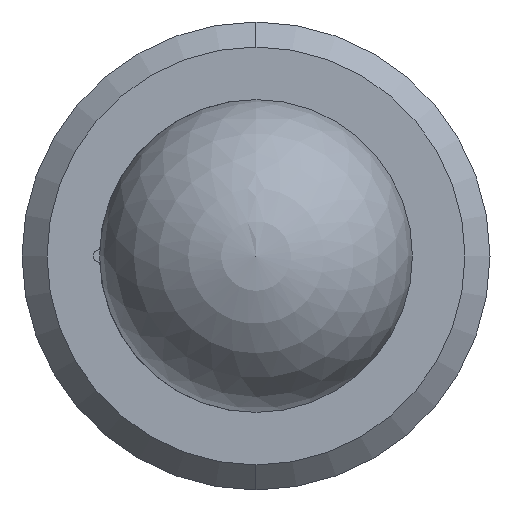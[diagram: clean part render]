
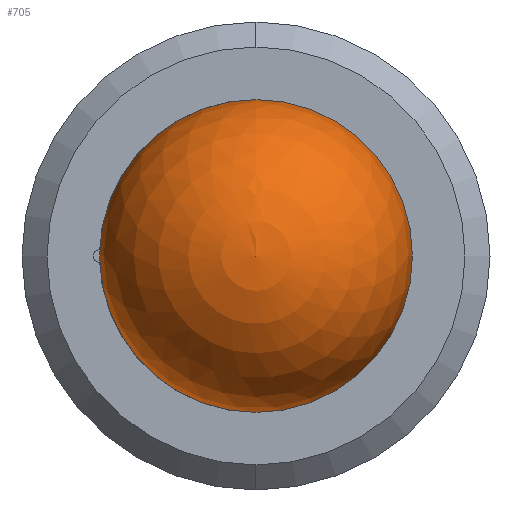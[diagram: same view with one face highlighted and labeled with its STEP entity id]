
A CAD part, left-side view. The second image highlights one B-rep face of the part: STEP entity #705.
In plain terms, the highlighted spherical face has radius 1.587 mm.
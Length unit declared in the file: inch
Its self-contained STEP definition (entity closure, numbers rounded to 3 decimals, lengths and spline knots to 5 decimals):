
#5 = VERTEX_POINT ( 'NONE', #433 ) ;
#22 = CIRCLE ( 'NONE', #273, 0.0625 ) ;
#33 = DIRECTION ( 'NONE',  ( -1., 0., 0. ) ) ;
#129 = DIRECTION ( 'NONE',  ( -1., 0., 0. ) ) ;
#145 = AXIS2_PLACEMENT_3D ( 'NONE', #585, #33, #349 ) ;
#191 = CARTESIAN_POINT ( 'NONE',  ( 0., 0., 0. ) ) ;
#254 = DIRECTION ( 'NONE',  ( 0., 0., -1. ) ) ;
#264 = AXIS2_PLACEMENT_3D ( 'NONE', #490, #129, #552 ) ;
#273 = AXIS2_PLACEMENT_3D ( 'NONE', #191, #620, #254 ) ;
#349 = DIRECTION ( 'NONE',  ( 0., 0., 1. ) ) ;
#358 = CIRCLE ( 'NONE', #264, 0.0625 ) ;
#398 = EDGE_LOOP ( 'NONE', ( #499, #599 ) ) ;
#433 = CARTESIAN_POINT ( 'NONE',  ( 0., 0.0625, 0. ) ) ;
#459 = CARTESIAN_POINT ( 'NONE',  ( 0., -0.0625, 0. ) ) ;
#464 = SPHERICAL_SURFACE ( 'NONE', #145, 0.0625 ) ;
#490 = CARTESIAN_POINT ( 'NONE',  ( 0., 0., 0. ) ) ;
#499 = ORIENTED_EDGE ( 'NONE', *, *, #596, .F. ) ;
#552 = DIRECTION ( 'NONE',  ( 0., 0., 1. ) ) ;
#585 = CARTESIAN_POINT ( 'NONE',  ( 0., 0., 0. ) ) ;
#596 = EDGE_CURVE ( 'NONE', #5, #694, #22, .T. ) ;
#599 = ORIENTED_EDGE ( 'NONE', *, *, #602, .T. ) ;
#602 = EDGE_CURVE ( 'NONE', #5, #694, #358, .T. ) ;
#620 = DIRECTION ( 'NONE',  ( 1., 0., 0. ) ) ;
#635 = FACE_OUTER_BOUND ( 'NONE', #398, .T. ) ;
#694 = VERTEX_POINT ( 'NONE', #459 ) ;
#705 = ADVANCED_FACE ( 'NONE', ( #635 ), #464, .T. ) ;
